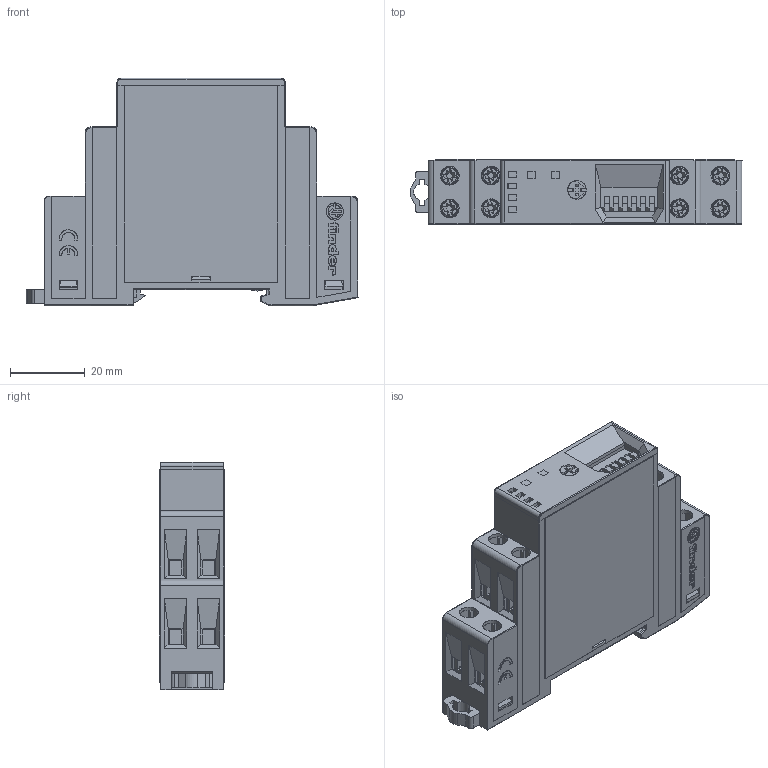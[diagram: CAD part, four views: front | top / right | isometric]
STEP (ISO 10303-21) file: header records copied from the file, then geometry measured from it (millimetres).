
FILE_DESCRIPTION(('STEP AP214'),'2;1');
FILE_NAME('81_01---catalogo.stp','2011-02-17T10:02:34',(''),(''),'2007.1.106','THINKDESIGN','');
FILE_SCHEMA(('AUTOMOTIVE_DESIGN'));
Products named in the file (1): None
Bounding box: 88.85 x 17.5 x 60.8 mm (x, y, z)
Surface area: 20920.4 mm2 (no closed solid volume)
Topology: 0 solids, 0 shells, 1527 faces, 9417 edges, 9392 vertices
Faces by surface type: plane 1243, bspline 152, cylinder 132
Full cylindrical faces by diameter (mm): 3 x10, 5 x9
Entity records: 94701 total; most frequent: CARTESIAN_POINT 28291, DIRECTION 11408, COMPOSITE_CURVE_SEGMENT 9417, TRIMMED_CURVE 8368, VECTOR 8144, LINE 8144, AXIS2_PLACEMENT_3D 1632, OUTER_BOUNDARY_CURVE 1527
